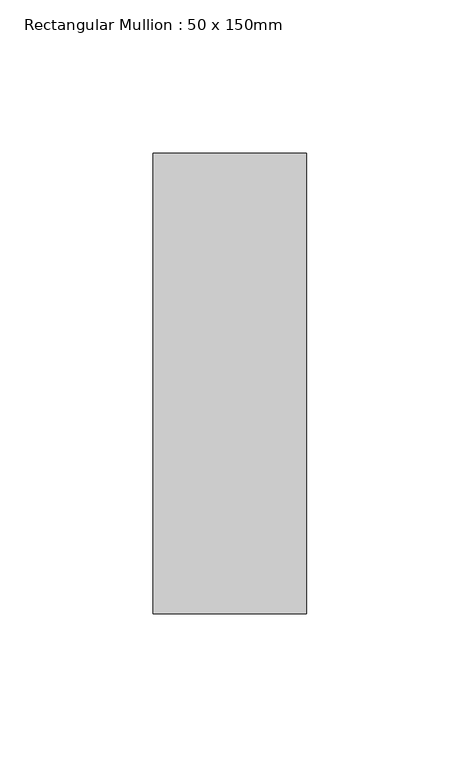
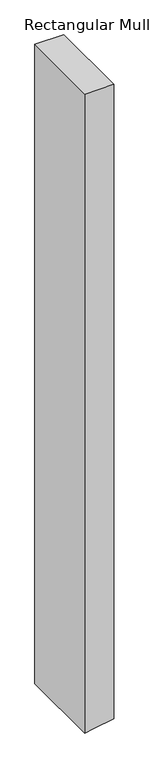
"""IFC4 building model written with IfcOpenShell, lengths in millimetres: member geometry, Rectangular Mullion : 50 x 150mm."""

from ifc_helpers import new_model, si_unit, frame, origin, place, context, project, spatial, polyline, outline, extrude, source, transform, mapped, element, save


def rectangular_mullion_50_x_150mm_75a9198e(model_context):
    return source(origin(), model_context, "Body", "SweptSolid", [
        extrude(outline(polyline([(0.0, 25.0), (0.0, -25.0), (-1172.3125931, -25.0), (-1169.3901075, -8.5782245), (-1163.6706755, 25.0), (0.0, 25.0)])), frame((0.0, -75.0, 0.0), z_axis=(0.0, 1.0, 0.0), x_axis=(0.0, 0.0, 1.0)), (0.0, 0.0, 1.0), 150.0),
    ])


if __name__ == "__main__":
    model = new_model("IFC4")
    model_context = context("Model", 3, world=origin())
    ifc_project = project(units=[si_unit("LENGTHUNIT", "METRE", prefix="MILLI")], contexts=[model_context])
    site = spatial("IfcSite", under=ifc_project)
    building = spatial("IfcBuilding", under=site)
    placement = place(None, origin())
    rectangular_mullion_50_x_150mm_shape = rectangular_mullion_50_x_150mm_75a9198e(model_context)
    element("IfcMember", 1, ObjectType="Rectangular Mullion : 50 x 150mm", at=placement, inside=building, context=model_context, shape_type="MappedRepresentation", body=[
        mapped(rectangular_mullion_50_x_150mm_shape, transform((0.0, 0.0, 0.0), x_axis=(1.0, 0.0, 0.0), y_axis=(0.0, 1.0, 0.0), z_axis=(0.0, 0.0, 1.0))),
    ])
    save(model, "model.ifc")
